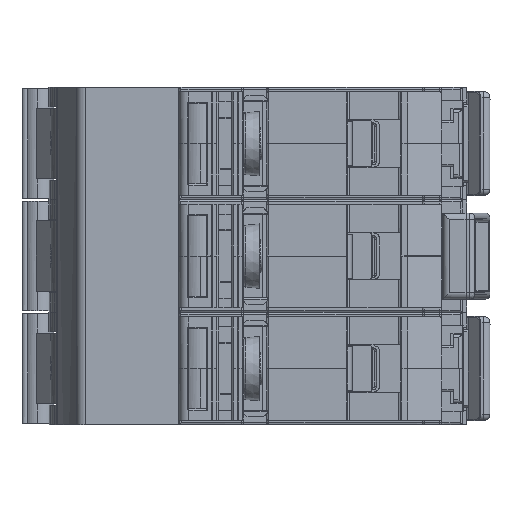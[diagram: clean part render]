
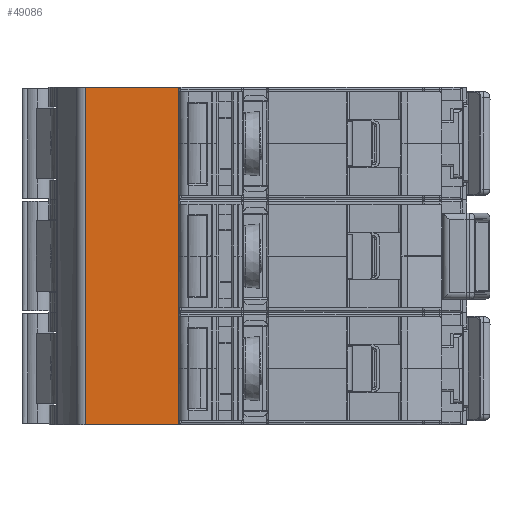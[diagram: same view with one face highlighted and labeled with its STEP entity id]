
A CAD part, left-side view. The second image highlights one B-rep face of the part: STEP entity #49086.
In plain terms, the highlighted planar face has unit normal (-1, 0, 0).
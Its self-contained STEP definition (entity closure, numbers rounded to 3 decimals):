
#27119 = EDGE_LOOP ( 'NONE', ( #80177, #80179, #80181, #80183 ) ) ;
#41552 = VERTEX_POINT ( 'NONE', #170907 ) ;
#41567 = VERTEX_POINT ( 'NONE', #170976 ) ;
#41931 = VERTEX_POINT ( 'NONE', #170073 ) ;
#41939 = VERTEX_POINT ( 'NONE', #170067 ) ;
#49086 = ADVANCED_FACE ( 'NONE', ( #215389 ), #215393, .F. ) ;
#52350 = LINE ( 'NONE', #52381, #202835 ) ;
#52369 = LINE ( 'NONE', #52372, #202831 ) ;
#52372 = CARTESIAN_POINT ( 'NONE',  ( -38.707, 16.729, 7.297 ) ) ;
#52373 = DIRECTION ( 'NONE',  ( 0., 0., 1. ) ) ;
#52381 = CARTESIAN_POINT ( 'NONE',  ( -38.707, 31.256, -7.32 ) ) ;
#52385 = DIRECTION ( 'NONE',  ( 0., 0., 1. ) ) ;
#52387 = LINE ( 'NONE', #52390, #202846 ) ;
#52390 = CARTESIAN_POINT ( 'NONE',  ( -38.707, 31.256, -8.775 ) ) ;
#52391 = DIRECTION ( 'NONE',  ( 0., -1., 0. ) ) ;
#53166 = LINE ( 'NONE', #53168, #203223 ) ;
#53168 = CARTESIAN_POINT ( 'NONE',  ( -38.707, 19.42, 43.803 ) ) ;
#53170 = DIRECTION ( 'NONE',  ( 0., -1., 0. ) ) ;
#80177 = ORIENTED_EDGE ( 'NONE', *, *, #240982, .F. ) ;
#80179 = ORIENTED_EDGE ( 'NONE', *, *, #240733, .F. ) ;
#80181 = ORIENTED_EDGE ( 'NONE', *, *, #240735, .T. ) ;
#80183 = ORIENTED_EDGE ( 'NONE', *, *, #240728, .T. ) ;
#109086 = AXIS2_PLACEMENT_3D ( 'NONE', #215422, #215423, #215425 ) ;
#170067 = CARTESIAN_POINT ( 'NONE',  ( -38.707, 16.729, -8.775 ) ) ;
#170073 = CARTESIAN_POINT ( 'NONE',  ( -38.707, 31.256, -8.775 ) ) ;
#170907 = CARTESIAN_POINT ( 'NONE',  ( -38.707, 16.729, 43.803 ) ) ;
#170976 = CARTESIAN_POINT ( 'NONE',  ( -38.707, 31.256, 43.803 ) ) ;
#202831 = VECTOR ( 'NONE', #52373, 1000. ) ;
#202835 = VECTOR ( 'NONE', #52385, 1000. ) ;
#202846 = VECTOR ( 'NONE', #52391, 1000. ) ;
#203223 = VECTOR ( 'NONE', #53170, 1000. ) ;
#215389 = FACE_OUTER_BOUND ( 'NONE', #27119, .T. ) ;
#215393 = PLANE ( 'NONE',  #109086 ) ;
#215422 = CARTESIAN_POINT ( 'NONE',  ( -38.707, 19.42, -7.32 ) ) ;
#215423 = DIRECTION ( 'NONE',  ( 1., 0., 0. ) ) ;
#215425 = DIRECTION ( 'NONE',  ( 0., 0., -1. ) ) ;
#240728 = EDGE_CURVE ( 'NONE', #41939, #41552, #52369, .T. ) ;
#240733 = EDGE_CURVE ( 'NONE', #41931, #41567, #52350, .T. ) ;
#240735 = EDGE_CURVE ( 'NONE', #41931, #41939, #52387, .T. ) ;
#240982 = EDGE_CURVE ( 'NONE', #41567, #41552, #53166, .T. ) ;
